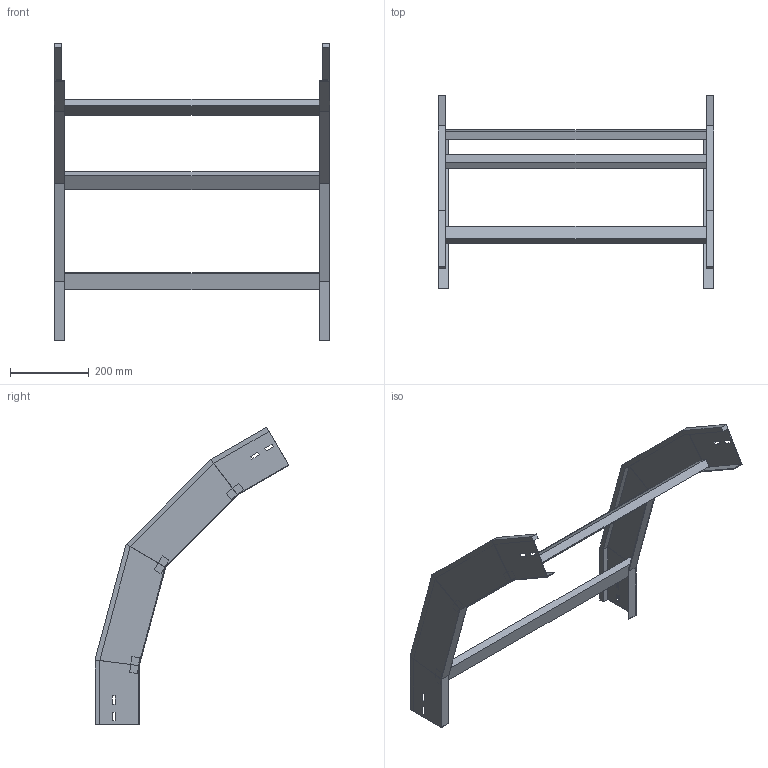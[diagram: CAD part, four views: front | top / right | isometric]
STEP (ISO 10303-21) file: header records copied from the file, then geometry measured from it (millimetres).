
FILE_DESCRIPTION (( 'STEP AP214' ), '1' );
FILE_NAME ('41B5J700.step', '2025-02-21T14:57:57', ( '' ), ( '' ), 'SwSTEP 2.0', 'SolidWorks 2023', '' );
FILE_SCHEMA (( 'AUTOMOTIVE_DESIGN' ));
Length unit declared in the file: millimetre
Products named in the file (3): LONGH.DISCESA_60°_H112.5_R500; 41B5J700; TRAVERSINO_700
Assembly tree (5 placements, depth 2):
  41B5J700
    LONGH.DISCESA_60°_H112.5_R500  x2
    TRAVERSINO_700  x3
Bounding box: 700 x 492.58 x 755.74 mm (x, y, z)
Volume: 2523281.3 mm3; surface area: 801357.2 mm2
Topology: 5 solids, 5 shells, 118 faces, 276 edges, 168 vertices
Faces by surface type: plane 118
Entity records: 1672 total; most frequent: CARTESIAN_POINT 276, ORIENTED_EDGE 264, DIRECTION 260, EDGE_CURVE 132, VECTOR 132, LINE 132, VERTEX_POINT 80, AXIS2_PLACEMENT_3D 64
